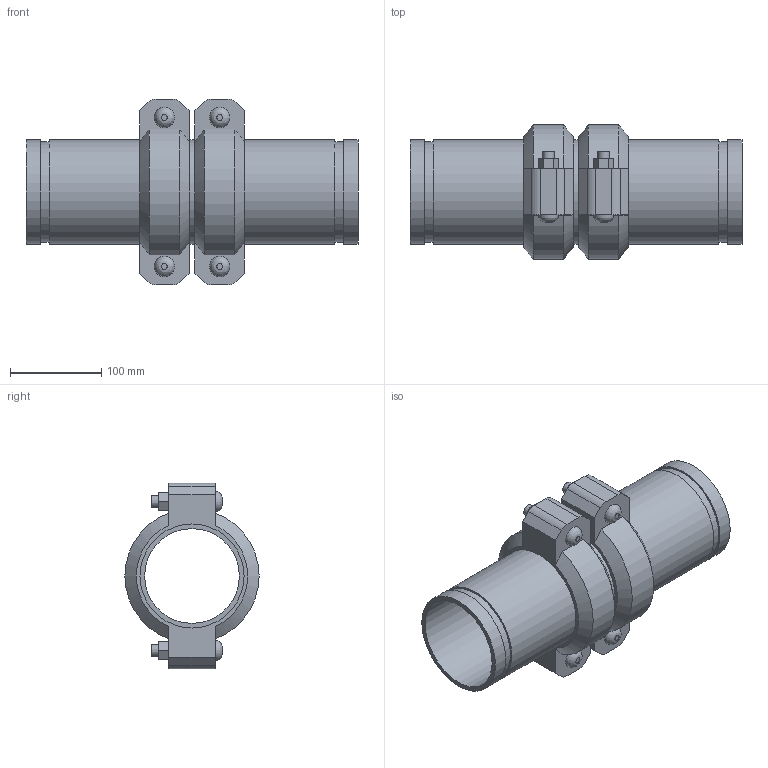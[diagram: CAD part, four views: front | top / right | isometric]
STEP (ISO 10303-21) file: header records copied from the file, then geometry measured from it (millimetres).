
FILE_DESCRIPTION(/* description */ ('VIC EXPANSION JOINT 2 COUPLINGS COMPRESSED STYLE 155 (OGS)','CAx-IF Rec.Pracs.---Representation and Presentation of Product Manufacturing Information (PMI)---4.0---2014-10-13'),/* implementation_level */ '2;1');
FILE_NAME(/* name */ 'C:\Users\kkamble\AppData\Roaming\Autodesk\ApplicationPlugins\Victaulic.Temp\A11\Victaulic_IPS_Expansion Joint_Compressed_2 Couplings_Style 155 (OGS)_4 (100).stp',/* time_stamp */ '2021-06-27T00:23:32+02:00',/* author */ ('kkamble'),/* organization */ ('Victaulic'),/* preprocessor_version */ 'ST-DEVELOPER v17.2',/* originating_system */ 'Autodesk Inventor 2019',/* authorisation */ '');
FILE_SCHEMA (('AP242_MANAGED_MODEL_BASED_3D_ENGINEERING_MIM_LF { 1 0 10303 442 1 1 4 }'));
Length unit declared in the file: inch
Products named in the file (4): 155-04.0; Nipple-04.0; Nipple-04.0_1; 075_2_Coup-04.0
Assembly tree (5 placements, depth 2):
  155-04.0
    Nipple-04.0  x2
    Nipple-04.0_1
    075_2_Coup-04.0  x2
Bounding box: 364.49 x 147.32 x 203.96 mm (x, y, z)
Volume: 1560605.8 mm3; surface area: 423980.1 mm2
Topology: 5 solids, 9 shells, 150 faces, 356 edges, 252 vertices
Faces by surface type: plane 90, cylinder 48, cone 8, bspline 4
Full cylindrical faces by diameter (mm): 12.7 x8, 14.605 x4, 103.988 x3, 107.95 x2, 110.084 x6, 114.3 x13
Entity records: 2762 total; most frequent: CARTESIAN_POINT 489, DIRECTION 453, ORIENTED_EDGE 386, EDGE_CURVE 193, AXIS2_PLACEMENT_3D 180, VERTEX_POINT 138, EDGE_LOOP 107, LINE 93
